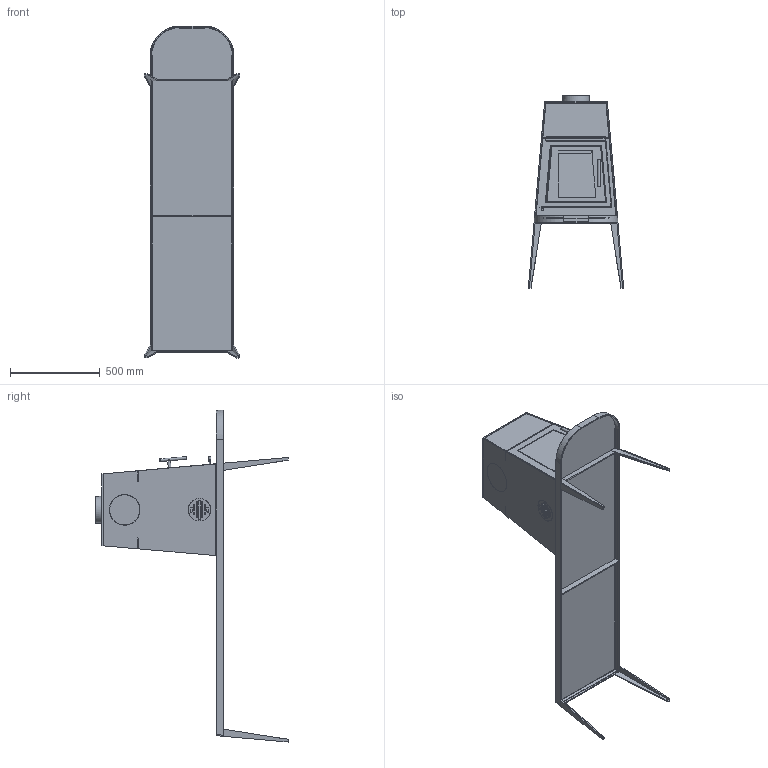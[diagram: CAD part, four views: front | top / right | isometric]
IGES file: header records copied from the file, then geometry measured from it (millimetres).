
Start section: C
Global section: file name: shaker_lange Bank.igs; native system: By Siemens PLM Incorporated; preprocessor: XPlus GENERIC/IGES 19.0.9; author: Author; organization: Title; date: 20170801.081819; units: millimetre
Bounding box: 529.72 x 1069.64 x 1844.82 mm (x, y, z)
Surface area: 6479361.6 mm2 (no closed solid volume)
Topology: 0 solids, 0 shells, 557 faces, 2697 edges, 2692 vertices
Faces by surface type: bspline 557
